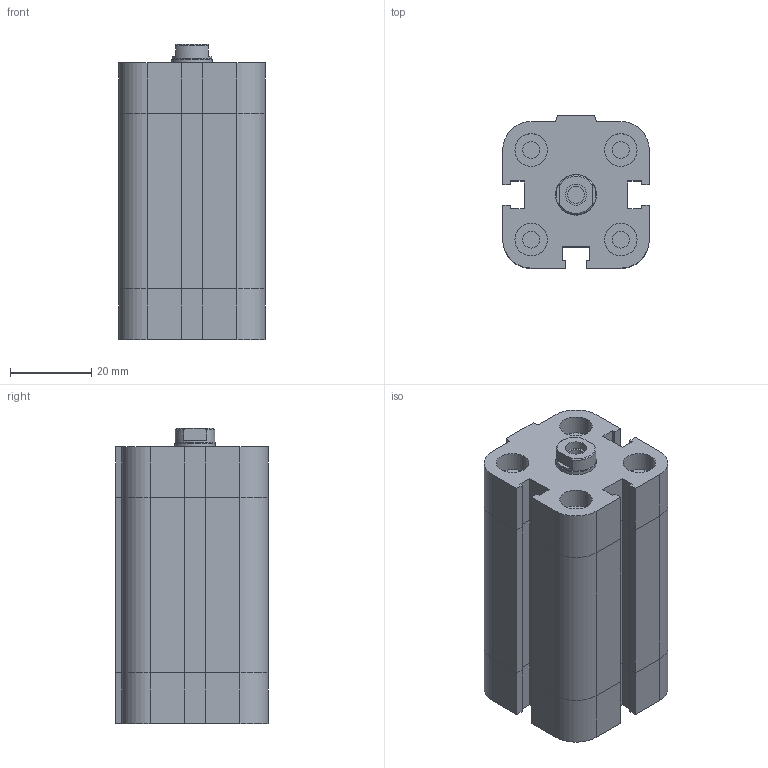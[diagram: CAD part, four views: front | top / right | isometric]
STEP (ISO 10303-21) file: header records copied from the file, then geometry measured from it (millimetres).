
FILE_DESCRIPTION((''),'2;1');
FILE_NAME('I:\Area Tecnica\Disegni\VARIE-3D\Componenti\EUROPE\15##_###_####_01_#\1581_20_0030_01_1.stp','2008-12-19T15:39:19',('rivolro1'),(''),'Autodesk Inventor 2009','Autodesk Inventor 2009','');
FILE_SCHEMA(('AUTOMOTIVE_DESIGN { 1 0 10303 214 1 1 1 1 }'));
Length unit declared in the file: millimetre
Products named in the file (3): 1581_20_0030_01_1; 1581_20_0030_01_1_C; 1561_20_0030_01_1_S
Assembly tree (2 placements, depth 2):
  1581_20_0030_01_1
    1581_20_0030_01_1_C
    1561_20_0030_01_1_S
Bounding box: 36 x 37.5 x 72.5 mm (x, y, z)
Volume: 75976.4 mm3; surface area: 20538 mm2
Topology: 2 solids, 2 shells, 163 faces, 349 edges, 211 vertices
Faces by surface type: plane 112, bspline 26, cylinder 22, cone 3
Full cylindrical faces by diameter (mm): 4.134 x4, 8 x4, 9.8 x1, 10 x1
Entity records: 4455 total; most frequent: CARTESIAN_POINT 952, DIRECTION 662, ORIENTED_EDGE 630, EDGE_CURVE 315, VECTOR 244, LINE 244, AXIS2_PLACEMENT_3D 209, EDGE_LOOP 208
